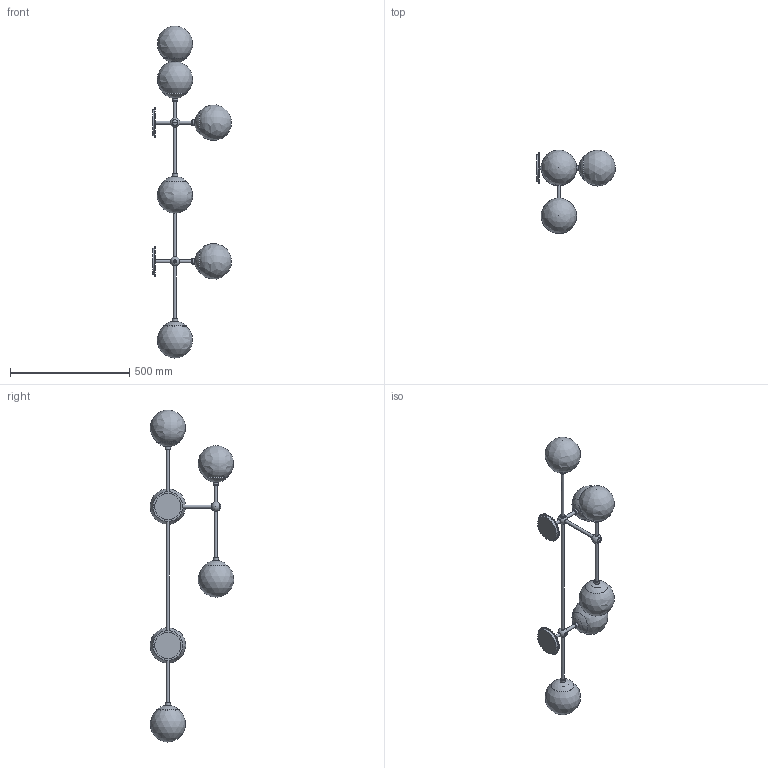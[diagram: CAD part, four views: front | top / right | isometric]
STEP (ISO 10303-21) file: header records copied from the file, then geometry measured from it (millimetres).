
FILE_DESCRIPTION(/* description */ (''),/* implementation_level */ '2;1');
FILE_NAME(/* name */ 'T:\B573 Globe Armstrong Multi Sconce Left 6\Pliki bryłowe handlowe\B573 Armstrong 6 R 3D files\B573 Armstrong 6 R.stp',/* time_stamp */ '2022-01-27T12:49:21+01:00',/* author */ ('Mariusz Awariusz'),/* organization */ (''),/* preprocessor_version */ 'ST-DEVELOPER v18.1',/* originating_system */ 'Autodesk Inventor 2022',/* authorisation */ '');
FILE_SCHEMA (('AUTOMOTIVE_DESIGN { 1 0 10303 214 3 1 1 }'));
Length unit declared in the file: millimetre
Products named in the file (1): B573 Globe Armstrong Multi Sconce Left 6 CE_v1_na potrzeby plików
 3D_2_jako część
Bounding box: 331.37 x 350.59 x 1393.43 mm (x, y, z)
Volume: 1435135.7 mm3; surface area: 1056747.8 mm2
Topology: 7 solids, 9 shells, 215 faces, 434 edges, 282 vertices
Faces by surface type: cylinder 72, plane 62, cone 36, sphere 21, torus 12, bspline 12
Full cylindrical faces by diameter (mm): 11.6 x2, 11.917 x2, 13 x16, 13.1 x3, 13.5 x13, 16 x6, 22 x6, 23.1 x3, 23.5 x3, 50.221 x6, 110 x2, 125 x2
Entity records: 6301 total; most frequent: CARTESIAN_POINT 1586, DIRECTION 1100, ORIENTED_EDGE 840, AXIS2_PLACEMENT_3D 488, EDGE_CURVE 420, CIRCLE 284, VERTEX_POINT 282, EDGE_LOOP 278
